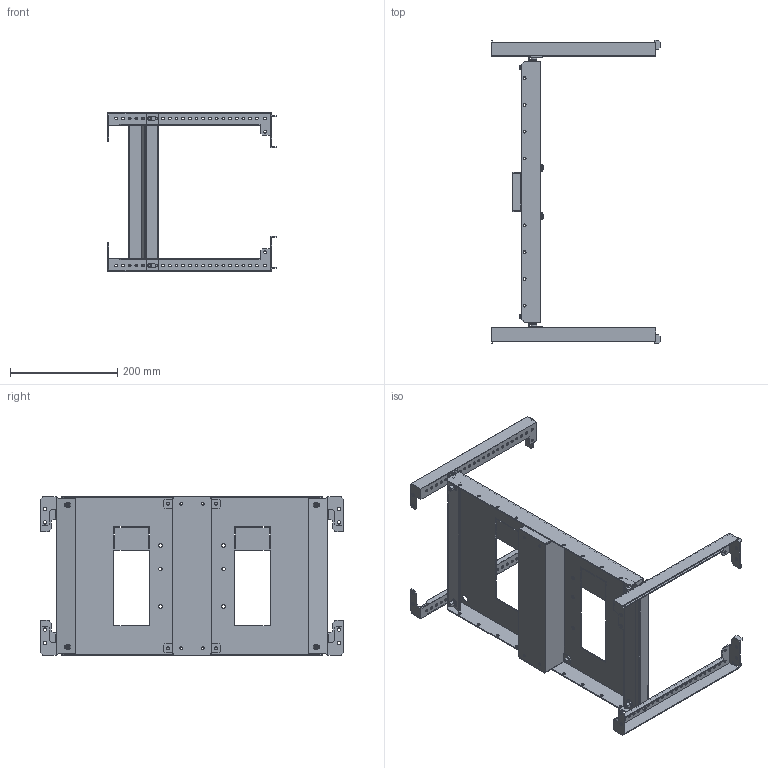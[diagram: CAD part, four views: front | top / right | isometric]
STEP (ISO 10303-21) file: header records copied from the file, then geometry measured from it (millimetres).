
FILE_DESCRIPTION (( 'STEP AP214' ), '1' );
FILE_NAME ('FO-00-HIVT-030-060 Êîìïëåêò ãîðèçîíòàëüíîé óñòàíîâêè ARMAT MCCB òèïîðàçìåð H I âòû÷íîãî èñïîëíåíèÿ 3II4P 300õ600 ìì.STEP', '2025-07-16T07:16:46', ( '' ), ( '' ), 'SwSTEP 2.0', 'SolidWorks 2023', '' );
FILE_SCHEMA (( 'AUTOMOTIVE_DESIGN' ));
Length unit declared in the file: millimetre
Products named in the file (5): Винты DIN 912 4xM6x20 300x600; Траверса горизонтальная; Траверса горизонтальнаяD; Панель монтажная H I втычная 300x600; FO-00-HIVT-030-060 Комплект горизонтальной установки ARMAT MCCB типоразмер H I втычного исполнения 3II4P 300х600 мм
Assembly tree (6 placements, depth 2):
  FO-00-HIVT-030-060 Комплект горизонтальной установки ARMAT MCCB типоразмер H I втычного исполнения 3II4P 300х600 мм
    Панель монтажная H I втычная 300x600
    Винты DIN 912 4xM6x20 300x600
    Траверса горизонтальная  x2
    Траверса горизонтальнаяD  x2
Bounding box: 314.5 x 565.63 x 297 mm (x, y, z)
Volume: 674787.5 mm3; surface area: 720116.8 mm2
Topology: 9 solids, 17 shells, 1338 faces, 3644 edges, 2396 vertices
Faces by surface type: plane 646, cylinder 572, cone 72, torus 48
Entity records: 36575 total; most frequent: CARTESIAN_POINT 7163, DIRECTION 6204, ORIENTED_EDGE 5956, EDGE_CURVE 2978, AXIS2_PLACEMENT_3D 2185, VERTEX_POINT 1952, VECTOR 1834, LINE 1834
